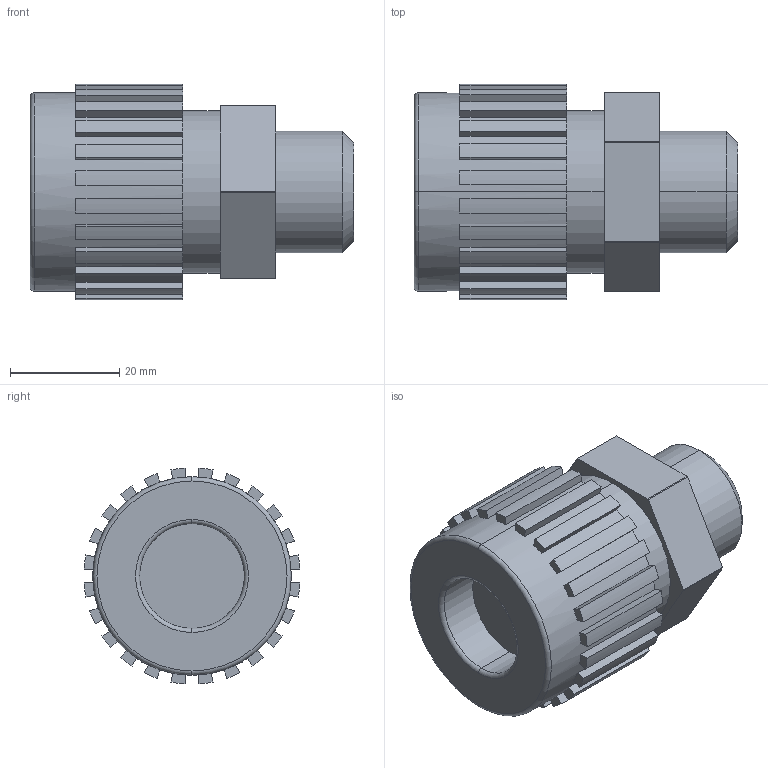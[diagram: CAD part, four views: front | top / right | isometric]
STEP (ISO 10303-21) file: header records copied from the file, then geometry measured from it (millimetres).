
FILE_DESCRIPTION (( 'STEP AP214' ), '1' );
FILE_NAME ('Fitting Pillar S-300 12.STEP', '2012-09-28T20:06:59', ( '' ), ( '' ), 'SwSTEP 2.0', 'SolidWorks 2012', '' );
FILE_SCHEMA (( 'AUTOMOTIVE_DESIGN' ));
Length unit declared in the file: inch
Products named in the file (1): Fitting Pillar S-300 12
Bounding box: 59.28 x 39.54 x 39.54 mm (x, y, z)
Volume: 47533.6 mm3; surface area: 10657.7 mm2
Topology: 1 solids, 1 shells, 128 faces, 360 edges, 238 vertices
Faces by surface type: plane 84, cylinder 38, torus 4, cone 2
Entity records: 4483 total; most frequent: DIRECTION 752, CARTESIAN_POINT 727, ORIENTED_EDGE 720, EDGE_CURVE 360, AXIS2_PLACEMENT_3D 263, VERTEX_POINT 238, VECTOR 226, LINE 226
